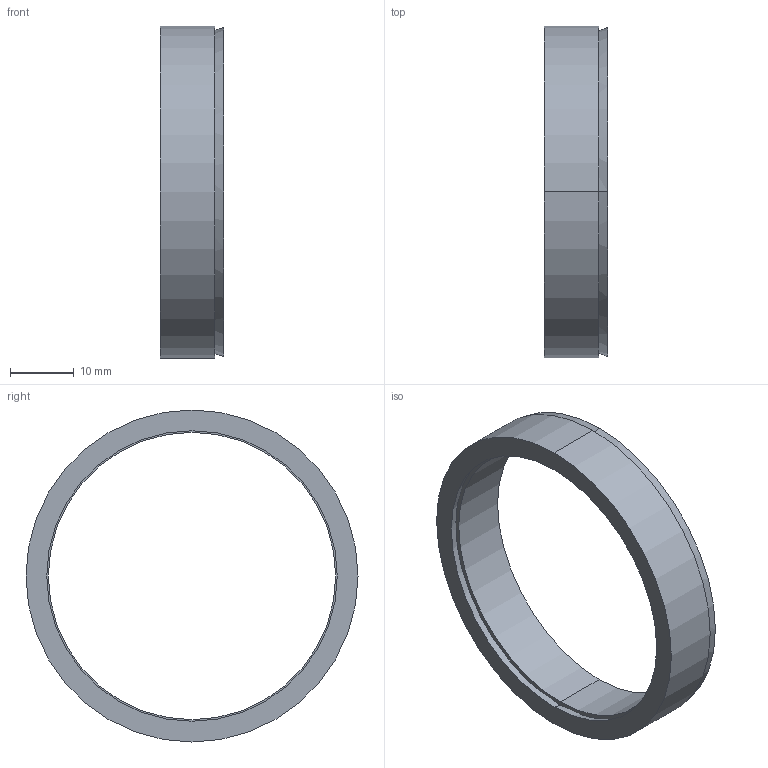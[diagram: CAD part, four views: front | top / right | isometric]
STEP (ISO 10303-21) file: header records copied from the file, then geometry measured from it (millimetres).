
FILE_DESCRIPTION (( 'STEP AP203' ), '1' );
FILE_NAME ('R-45-52.STEP', '2017-11-06T03:11:49', ( 'MYCOM' ), ( '' ), 'SwSTEP 2.0', 'SolidWorks 2015', '' );
FILE_SCHEMA (( 'CONFIG_CONTROL_DESIGN' ));
Length unit declared in the file: millimetre
Products named in the file (1): R-45-52
Bounding box: 10 x 52 x 52 mm (x, y, z)
Surface area: 6551.4 mm2 (no closed solid volume)
Topology: 0 solids, 2 shells, 12 faces, 24 edges, 16 vertices
Faces by surface type: cylinder 4, cone 4, plane 4
Entity records: 406 total; most frequent: DIRECTION 66, CARTESIAN_POINT 53, ORIENTED_EDGE 48, AXIS2_PLACEMENT_3D 29, EDGE_CURVE 24, VERTEX_POINT 16, EDGE_LOOP 16, CIRCLE 16
